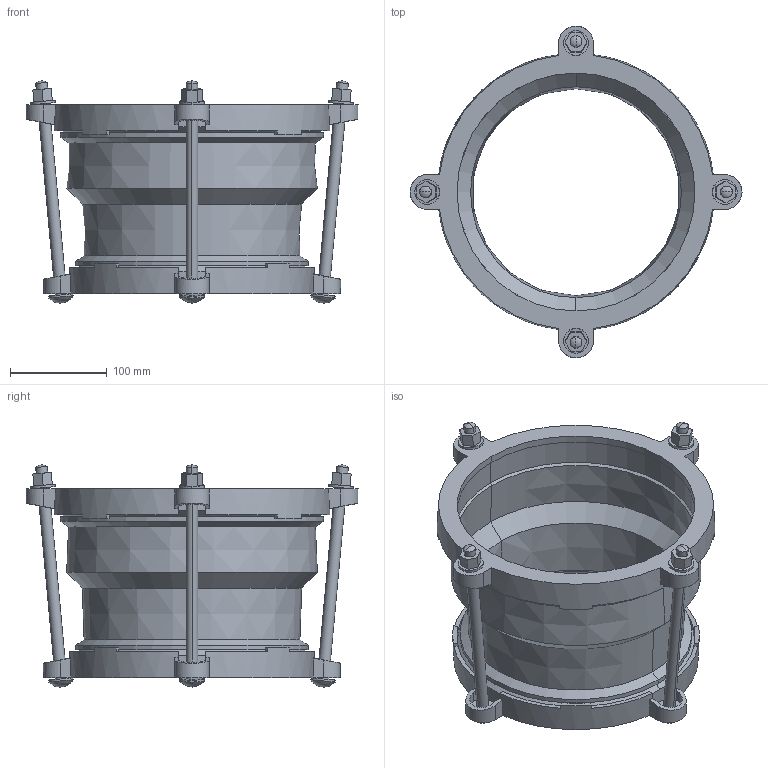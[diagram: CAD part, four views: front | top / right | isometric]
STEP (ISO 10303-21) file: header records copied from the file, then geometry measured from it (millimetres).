
FILE_DESCRIPTION((''),'2;1');
FILE_NAME('BIM_12395_8','2018-10-10T',('MReader'),(''),'CREO PARAMETRIC BY PTC INC, 2016130','CREO PARAMETRIC BY PTC INC, 2016130','');
FILE_SCHEMA(('CONFIG_CONTROL_DESIGN'));
Length unit declared in the file: millimetre
Products named in the file (1): BIM_12395_8
Bounding box: 342.5 x 342.5 x 229.08 mm (x, y, z)
Volume: 1517987.4 mm3; surface area: 471931.4 mm2
Topology: 2 solids, 2 shells, 282 faces, 732 edges, 460 vertices
Faces by surface type: plane 122, cylinder 84, cone 60, sphere 16
Entity records: 9119 total; most frequent: CARTESIAN_POINT 2317, ORIENTED_EDGE 1432, DIRECTION 1380, EDGE_CURVE 716, AXIS2_PLACEMENT_3D 526, VERTEX_POINT 460, VECTOR 328, LINE 328
